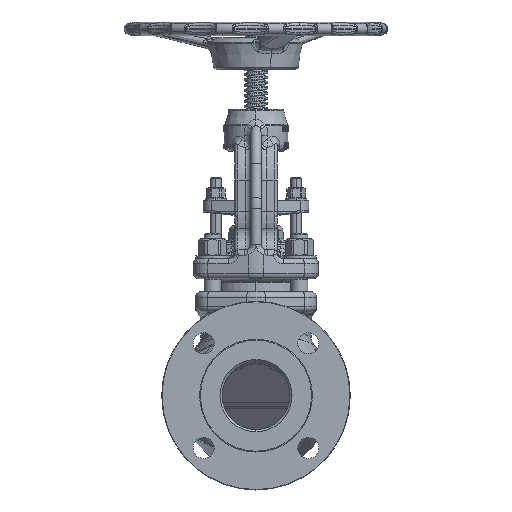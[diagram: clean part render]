
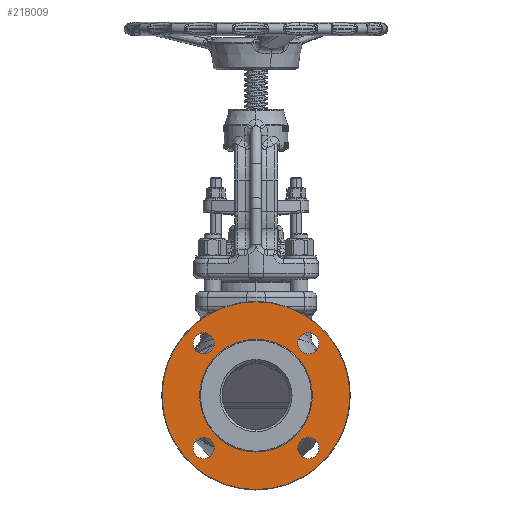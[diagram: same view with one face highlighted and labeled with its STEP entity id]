
A CAD part, left-side view. The second image highlights one B-rep face of the part: STEP entity #218009.
In plain terms, the highlighted planar face has unit normal (-1, 0, 0).
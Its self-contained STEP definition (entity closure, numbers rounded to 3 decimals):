
#92859=CARTESIAN_POINT('',(-106.4,0.,0.));
#92860=DIRECTION('',(-1.,0.,0.));
#92861=DIRECTION('',(0.,0.,-1.));
#92862=AXIS2_PLACEMENT_3D('',#92859,#92860,#92861);
#92869=CARTESIAN_POINT('',(-106.4,0.,0.));
#92870=DIRECTION('',(-1.,0.,0.));
#92871=DIRECTION('',(0.,0.,1.));
#92872=AXIS2_PLACEMENT_3D('',#92869,#92870,#92871);
#92874=CARTESIAN_POINT('',(-106.4,0.,0.));
#92875=DIRECTION('',(1.,0.,0.));
#92876=DIRECTION('',(0.,0.,1.));
#92877=AXIS2_PLACEMENT_3D('',#92874,#92875,#92876);
#92879=CARTESIAN_POINT('',(-106.4,-49.391,49.391));
#92880=DIRECTION('',(1.,0.,0.));
#92881=DIRECTION('',(0.,1.,0.));
#92882=AXIS2_PLACEMENT_3D('',#92879,#92880,#92881);
#92884=CARTESIAN_POINT('',(-106.4,-49.391,49.391));
#92885=DIRECTION('',(1.,0.,0.));
#92886=DIRECTION('',(0.,-1.,0.));
#92887=AXIS2_PLACEMENT_3D('',#92884,#92885,#92886);
#92889=CARTESIAN_POINT('',(-106.4,-49.391,-49.391));
#92890=DIRECTION('',(1.,0.,0.));
#92891=DIRECTION('',(0.,1.,0.));
#92892=AXIS2_PLACEMENT_3D('',#92889,#92890,#92891);
#92894=CARTESIAN_POINT('',(-106.4,-49.391,-49.391));
#92895=DIRECTION('',(1.,0.,0.));
#92896=DIRECTION('',(0.,-1.,0.));
#92897=AXIS2_PLACEMENT_3D('',#92894,#92895,#92896);
#92899=CARTESIAN_POINT('',(-106.4,49.391,-49.391));
#92900=DIRECTION('',(1.,0.,0.));
#92901=DIRECTION('',(0.,1.,0.));
#92902=AXIS2_PLACEMENT_3D('',#92899,#92900,#92901);
#92904=CARTESIAN_POINT('',(-106.4,49.391,-49.391));
#92905=DIRECTION('',(1.,0.,0.));
#92906=DIRECTION('',(0.,-1.,0.));
#92907=AXIS2_PLACEMENT_3D('',#92904,#92905,#92906);
#92909=CARTESIAN_POINT('',(-106.4,49.391,49.391));
#92910=DIRECTION('',(1.,0.,0.));
#92911=DIRECTION('',(0.,1.,0.));
#92912=AXIS2_PLACEMENT_3D('',#92909,#92910,#92911);
#92914=CARTESIAN_POINT('',(-106.4,49.391,49.391));
#92915=DIRECTION('',(1.,0.,0.));
#92916=DIRECTION('',(0.,-1.,0.));
#92917=AXIS2_PLACEMENT_3D('',#92914,#92915,#92916);
#92919=CARTESIAN_POINT('',(-106.4,0.,0.));
#92920=DIRECTION('',(-1.,0.,0.));
#92921=DIRECTION('',(0.,0.,1.));
#92922=AXIS2_PLACEMENT_3D('',#92919,#92920,#92921);
#100195=CARTESIAN_POINT('',(-106.4,-59.391,49.391));
#100196=VERTEX_POINT('',#100195);
#100197=CARTESIAN_POINT('',(-106.4,-39.391,49.391));
#100198=VERTEX_POINT('',#100197);
#100203=CARTESIAN_POINT('',(-106.4,-59.391,-49.391));
#100204=VERTEX_POINT('',#100203);
#100205=CARTESIAN_POINT('',(-106.4,-39.391,-49.391));
#100206=VERTEX_POINT('',#100205);
#100211=CARTESIAN_POINT('',(-106.4,39.391,-49.391));
#100212=VERTEX_POINT('',#100211);
#100213=CARTESIAN_POINT('',(-106.4,59.391,-49.391));
#100214=VERTEX_POINT('',#100213);
#100219=CARTESIAN_POINT('',(-106.4,39.391,49.391));
#100220=VERTEX_POINT('',#100219);
#100221=CARTESIAN_POINT('',(-106.4,59.391,49.391));
#100222=VERTEX_POINT('',#100221);
#102029=CARTESIAN_POINT('',(-106.4,0.,-88.611));
#102030=CARTESIAN_POINT('',(-106.4,0.,88.611));
#102031=VERTEX_POINT('',#102029);
#102032=VERTEX_POINT('',#102030);
#102158=CARTESIAN_POINT('',(-106.4,0.,53.2));
#102159=VERTEX_POINT('',#102158);
#102162=CARTESIAN_POINT('',(-106.4,0.,-53.2));
#102163=VERTEX_POINT('',#102162);
#217969=CARTESIAN_POINT('',(-106.4,0.,0.));
#217970=DIRECTION('',(-1.,0.,0.));
#217971=DIRECTION('',(0.,0.,1.));
#217972=AXIS2_PLACEMENT_3D('',#217969,#217970,#217971);
#217973=PLANE('',#217972);
#217974=ORIENTED_EDGE('',*,*,#217959,.F.);
#217976=ORIENTED_EDGE('',*,*,#217975,.F.);
#217977=EDGE_LOOP('',(#217974,#217976));
#217978=FACE_OUTER_BOUND('',#217977,.F.);
#217980=ORIENTED_EDGE('',*,*,#217979,.T.);
#217982=ORIENTED_EDGE('',*,*,#217981,.F.);
#217983=EDGE_LOOP('',(#217980,#217982));
#217984=FACE_BOUND('',#217983,.F.);
#217986=ORIENTED_EDGE('',*,*,#217985,.F.);
#217988=ORIENTED_EDGE('',*,*,#217987,.F.);
#217989=EDGE_LOOP('',(#217986,#217988));
#217990=FACE_BOUND('',#217989,.F.);
#217992=ORIENTED_EDGE('',*,*,#217991,.F.);
#217994=ORIENTED_EDGE('',*,*,#217993,.F.);
#217995=EDGE_LOOP('',(#217992,#217994));
#217996=FACE_BOUND('',#217995,.F.);
#217998=ORIENTED_EDGE('',*,*,#217997,.F.);
#218000=ORIENTED_EDGE('',*,*,#217999,.F.);
#218001=EDGE_LOOP('',(#217998,#218000));
#218002=FACE_BOUND('',#218001,.F.);
#218004=ORIENTED_EDGE('',*,*,#218003,.F.);
#218006=ORIENTED_EDGE('',*,*,#218005,.F.);
#218007=EDGE_LOOP('',(#218004,#218006));
#218008=FACE_BOUND('',#218007,.F.);
#92863=CIRCLE('',#92862,88.611);
#92873=CIRCLE('',#92872,53.2);
#92878=CIRCLE('',#92877,53.2);
#92883=CIRCLE('',#92882,10.);
#92888=CIRCLE('',#92887,10.);
#92893=CIRCLE('',#92892,10.);
#92898=CIRCLE('',#92897,10.);
#92903=CIRCLE('',#92902,10.);
#92908=CIRCLE('',#92907,10.);
#92913=CIRCLE('',#92912,10.);
#92918=CIRCLE('',#92917,10.);
#92923=CIRCLE('',#92922,88.611);
#217959=EDGE_CURVE('',#102031,#102032,#92863,.T.);
#217975=EDGE_CURVE('',#102032,#102031,#92923,.T.);
#217979=EDGE_CURVE('',#102159,#102163,#92873,.T.);
#217981=EDGE_CURVE('',#102159,#102163,#92878,.T.);
#217985=EDGE_CURVE('',#100198,#100196,#92883,.T.);
#217987=EDGE_CURVE('',#100196,#100198,#92888,.T.);
#217991=EDGE_CURVE('',#100206,#100204,#92893,.T.);
#217993=EDGE_CURVE('',#100204,#100206,#92898,.T.);
#217997=EDGE_CURVE('',#100214,#100212,#92903,.T.);
#217999=EDGE_CURVE('',#100212,#100214,#92908,.T.);
#218003=EDGE_CURVE('',#100222,#100220,#92913,.T.);
#218005=EDGE_CURVE('',#100220,#100222,#92918,.T.);
#218009=ADVANCED_FACE('',(#217978,#217984,#217990,#217996,#218002,#218008),
#217973,.T.);
